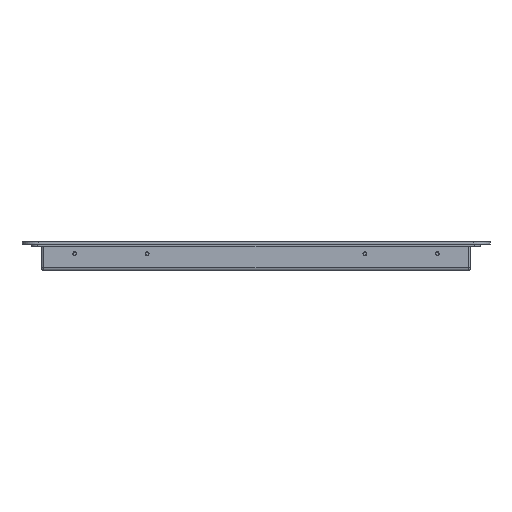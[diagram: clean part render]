
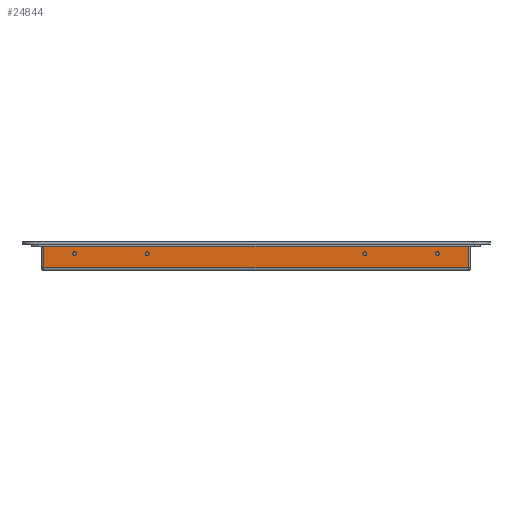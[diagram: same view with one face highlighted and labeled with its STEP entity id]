
A CAD part, left-side view. The second image highlights one B-rep face of the part: STEP entity #24844.
In plain terms, the highlighted planar face has unit normal (-1, 0, 0).
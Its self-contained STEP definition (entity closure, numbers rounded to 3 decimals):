
#30 = EDGE_LOOP ( 'NONE', ( #10764, #33041 ) ) ;
#852 = ORIENTED_EDGE ( 'NONE', *, *, #17659, .T. ) ;
#1321 = PLANE ( 'NONE',  #27120 ) ;
#1996 = DIRECTION ( 'NONE',  ( 0., 0., 1. ) ) ;
#2481 = ORIENTED_EDGE ( 'NONE', *, *, #11575, .F. ) ;
#2519 = FACE_OUTER_BOUND ( 'NONE', #10733, .T. ) ;
#2549 = LINE ( 'NONE', #17755, #28914 ) ;
#2620 = DIRECTION ( 'NONE',  ( -1., 0., 0. ) ) ;
#3222 = CIRCLE ( 'NONE', #29225, 1.525 ) ;
#3308 = EDGE_CURVE ( 'NONE', #4469, #32382, #18245, .T. ) ;
#3467 = EDGE_LOOP ( 'NONE', ( #2481, #21995 ) ) ;
#3535 = CARTESIAN_POINT ( 'NONE',  ( -104.272, -5.088, -9.525 ) ) ;
#3647 = VECTOR ( 'NONE', #25283, 1000. ) ;
#3883 = ORIENTED_EDGE ( 'NONE', *, *, #27234, .T. ) ;
#3888 = VECTOR ( 'NONE', #22897, 1000. ) ;
#4196 = CARTESIAN_POINT ( 'NONE',  ( -104.272, 54.912, -8. ) ) ;
#4242 = CARTESIAN_POINT ( 'NONE',  ( -104.272, -272.588, -19.8 ) ) ;
#4469 = VERTEX_POINT ( 'NONE', #30366 ) ;
#4669 = ORIENTED_EDGE ( 'NONE', *, *, #27287, .F. ) ;
#4766 = EDGE_CURVE ( 'NONE', #16194, #13890, #25367, .T. ) ;
#5166 = VERTEX_POINT ( 'NONE', #27555 ) ;
#6140 = CIRCLE ( 'NONE', #33116, 1.525 ) ;
#6205 = EDGE_CURVE ( 'NONE', #21815, #32336, #31649, .T. ) ;
#6448 = DIRECTION ( 'NONE',  ( 1., 0., 0. ) ) ;
#6758 = ORIENTED_EDGE ( 'NONE', *, *, #11846, .T. ) ;
#6783 = DIRECTION ( 'NONE',  ( 0., 0., 1. ) ) ;
#6806 = CARTESIAN_POINT ( 'NONE',  ( -104.272, 54.912, -9.525 ) ) ;
#7107 = CARTESIAN_POINT ( 'NONE',  ( -104.272, -270.588, -19.8 ) ) ;
#7561 = VERTEX_POINT ( 'NONE', #29451 ) ;
#7807 = CARTESIAN_POINT ( 'NONE',  ( -104.272, -245.088, -9.525 ) ) ;
#7824 = CARTESIAN_POINT ( 'NONE',  ( -104.272, 54.912, -8. ) ) ;
#8067 = CIRCLE ( 'NONE', #31662, 1.525 ) ;
#8425 = AXIS2_PLACEMENT_3D ( 'NONE', #4196, #22031, #6783 ) ;
#8503 = EDGE_CURVE ( 'NONE', #13890, #16194, #20713, .T. ) ;
#8654 = ORIENTED_EDGE ( 'NONE', *, *, #8503, .F. ) ;
#9107 = LINE ( 'NONE', #4242, #9908 ) ;
#9310 = FACE_BOUND ( 'NONE', #30, .T. ) ;
#9588 = EDGE_LOOP ( 'NONE', ( #4669, #31276 ) ) ;
#9908 = VECTOR ( 'NONE', #22088, 1000. ) ;
#10101 = FACE_BOUND ( 'NONE', #3467, .T. ) ;
#10390 = DIRECTION ( 'NONE',  ( 0., 0., 1. ) ) ;
#10558 = CARTESIAN_POINT ( 'NONE',  ( -104.272, -245.088, -8. ) ) ;
#10733 = EDGE_LOOP ( 'NONE', ( #3883, #30825, #6758, #852 ) ) ;
#10764 = ORIENTED_EDGE ( 'NONE', *, *, #16546, .F. ) ;
#11536 = CARTESIAN_POINT ( 'NONE',  ( -104.272, -245.088, -8. ) ) ;
#11575 = EDGE_CURVE ( 'NONE', #7561, #18770, #6140, .T. ) ;
#11846 = EDGE_CURVE ( 'NONE', #4469, #29350, #2549, .T. ) ;
#12656 = AXIS2_PLACEMENT_3D ( 'NONE', #7824, #25662, #10390 ) ;
#13078 = DIRECTION ( 'NONE',  ( 0., 0., 1. ) ) ;
#13120 = CARTESIAN_POINT ( 'NONE',  ( -104.272, -5.088, -8. ) ) ;
#13822 = CARTESIAN_POINT ( 'NONE',  ( -104.272, -270.588, -2. ) ) ;
#13890 = VERTEX_POINT ( 'NONE', #6806 ) ;
#14091 = DIRECTION ( 'NONE',  ( 0., 0., 1. ) ) ;
#14529 = CARTESIAN_POINT ( 'NONE',  ( -104.272, -185.088, -8. ) ) ;
#15018 = CARTESIAN_POINT ( 'NONE',  ( -104.272, -270.588, -67.8 ) ) ;
#15290 = FACE_BOUND ( 'NONE', #9588, .T. ) ;
#15396 = AXIS2_PLACEMENT_3D ( 'NONE', #13120, #31014, #15697 ) ;
#15697 = DIRECTION ( 'NONE',  ( 0., 0., 1. ) ) ;
#16194 = VERTEX_POINT ( 'NONE', #27925 ) ;
#16546 = EDGE_CURVE ( 'NONE', #24234, #5166, #3222, .T. ) ;
#16710 = ORIENTED_EDGE ( 'NONE', *, *, #4766, .F. ) ;
#17052 = DIRECTION ( 'NONE',  ( 0., 0., 1. ) ) ;
#17253 = DIRECTION ( 'NONE',  ( -1., 0., 0. ) ) ;
#17516 = AXIS2_PLACEMENT_3D ( 'NONE', #10558, #28412, #13078 ) ;
#17659 = EDGE_CURVE ( 'NONE', #29350, #27167, #9107, .T. ) ;
#17755 = CARTESIAN_POINT ( 'NONE',  ( -104.272, 80.412, -67.8 ) ) ;
#17879 = CARTESIAN_POINT ( 'NONE',  ( -104.272, -5.088, -8. ) ) ;
#18245 = LINE ( 'NONE', #28169, #3888 ) ;
#18770 = VERTEX_POINT ( 'NONE', #7807 ) ;
#19124 = CARTESIAN_POINT ( 'NONE',  ( -104.272, -272.588, -67.8 ) ) ;
#20449 = DIRECTION ( 'NONE',  ( 0., 0., 1. ) ) ;
#20713 = CIRCLE ( 'NONE', #8425, 1.525 ) ;
#20991 = EDGE_CURVE ( 'NONE', #18770, #7561, #31873, .T. ) ;
#21297 = CARTESIAN_POINT ( 'NONE',  ( -104.272, -5.088, -6.475 ) ) ;
#21815 = VERTEX_POINT ( 'NONE', #3535 ) ;
#21995 = ORIENTED_EDGE ( 'NONE', *, *, #20991, .F. ) ;
#22031 = DIRECTION ( 'NONE',  ( -1., 0., 0. ) ) ;
#22088 = DIRECTION ( 'NONE',  ( 0., -1., 0. ) ) ;
#22897 = DIRECTION ( 'NONE',  ( 0., -1., 0. ) ) ;
#23654 = FACE_BOUND ( 'NONE', #31061, .T. ) ;
#24234 = VERTEX_POINT ( 'NONE', #26919 ) ;
#24285 = DIRECTION ( 'NONE',  ( 0., 0., -1. ) ) ;
#24844 = ADVANCED_FACE ( 'NONE', ( #10101, #9310, #15290, #23654, #2519 ), #1321, .F. ) ;
#25283 = DIRECTION ( 'NONE',  ( 0., 0., 1. ) ) ;
#25367 = CIRCLE ( 'NONE', #12656, 1.525 ) ;
#25466 = DIRECTION ( 'NONE',  ( 0., 0., -1. ) ) ;
#25620 = CIRCLE ( 'NONE', #31507, 1.525 ) ;
#25662 = DIRECTION ( 'NONE',  ( -1., 0., 0. ) ) ;
#26919 = CARTESIAN_POINT ( 'NONE',  ( -104.272, -185.088, -6.475 ) ) ;
#27120 = AXIS2_PLACEMENT_3D ( 'NONE', #19124, #6448, #24285 ) ;
#27167 = VERTEX_POINT ( 'NONE', #7107 ) ;
#27234 = EDGE_CURVE ( 'NONE', #27167, #32382, #30051, .T. ) ;
#27287 = EDGE_CURVE ( 'NONE', #32336, #21815, #8067, .T. ) ;
#27555 = CARTESIAN_POINT ( 'NONE',  ( -104.272, -185.088, -9.525 ) ) ;
#27925 = CARTESIAN_POINT ( 'NONE',  ( -104.272, 54.912, -6.475 ) ) ;
#28169 = CARTESIAN_POINT ( 'NONE',  ( -104.272, -270.588, -2. ) ) ;
#28412 = DIRECTION ( 'NONE',  ( -1., 0., 0. ) ) ;
#28914 = VECTOR ( 'NONE', #25466, 1000. ) ;
#29225 = AXIS2_PLACEMENT_3D ( 'NONE', #32554, #17253, #1996 ) ;
#29350 = VERTEX_POINT ( 'NONE', #29603 ) ;
#29404 = DIRECTION ( 'NONE',  ( -1., 0., 0. ) ) ;
#29451 = CARTESIAN_POINT ( 'NONE',  ( -104.272, -245.088, -6.475 ) ) ;
#29603 = CARTESIAN_POINT ( 'NONE',  ( -104.272, 80.412, -19.8 ) ) ;
#30051 = LINE ( 'NONE', #15018, #3647 ) ;
#30366 = CARTESIAN_POINT ( 'NONE',  ( -104.272, 80.412, -2. ) ) ;
#30825 = ORIENTED_EDGE ( 'NONE', *, *, #3308, .F. ) ;
#31014 = DIRECTION ( 'NONE',  ( -1., 0., 0. ) ) ;
#31061 = EDGE_LOOP ( 'NONE', ( #16710, #8654 ) ) ;
#31276 = ORIENTED_EDGE ( 'NONE', *, *, #6205, .F. ) ;
#31507 = AXIS2_PLACEMENT_3D ( 'NONE', #14529, #32385, #17052 ) ;
#31649 = CIRCLE ( 'NONE', #15396, 1.525 ) ;
#31662 = AXIS2_PLACEMENT_3D ( 'NONE', #17879, #2620, #20449 ) ;
#31873 = CIRCLE ( 'NONE', #17516, 1.525 ) ;
#32336 = VERTEX_POINT ( 'NONE', #21297 ) ;
#32382 = VERTEX_POINT ( 'NONE', #13822 ) ;
#32385 = DIRECTION ( 'NONE',  ( -1., 0., 0. ) ) ;
#32502 = EDGE_CURVE ( 'NONE', #5166, #24234, #25620, .T. ) ;
#32554 = CARTESIAN_POINT ( 'NONE',  ( -104.272, -185.088, -8. ) ) ;
#33041 = ORIENTED_EDGE ( 'NONE', *, *, #32502, .F. ) ;
#33116 = AXIS2_PLACEMENT_3D ( 'NONE', #11536, #29404, #14091 ) ;
